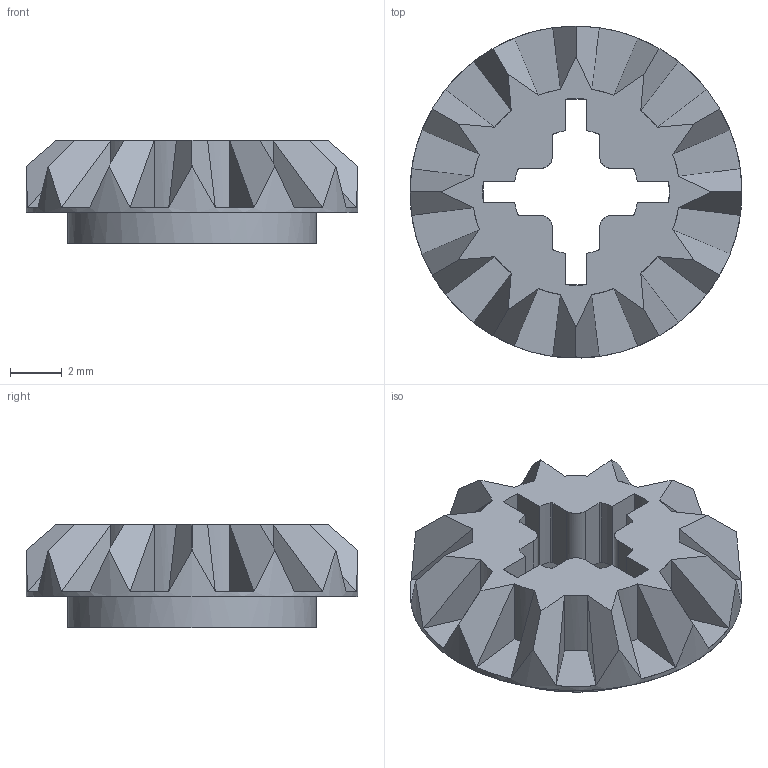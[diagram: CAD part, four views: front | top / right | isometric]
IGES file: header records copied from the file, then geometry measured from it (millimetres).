
Start section: C
Global section: file name: Sand_4565452_AVV.iges; native system: By Siemens PLM Incorporated; preprocessor: XPlus GENERIC/IGES 26.1.183; author: Author; organization: Title; date: 20250722.000442; units: millimetre
Bounding box: 12.8 x 12.8 x 4 mm (x, y, z)
Surface area: 531.4 mm2 (no closed solid volume)
Topology: 0 solids, 0 shells, 118 faces, 600 edges, 600 vertices
Faces by surface type: bspline 118
